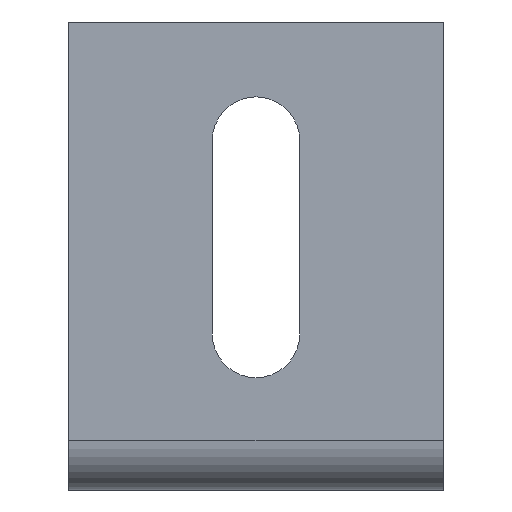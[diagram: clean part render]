
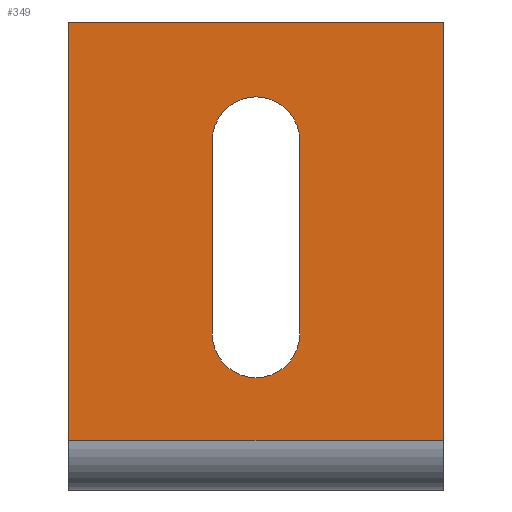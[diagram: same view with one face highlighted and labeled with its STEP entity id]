
A CAD part, front view. The second image highlights one B-rep face of the part: STEP entity #349.
In plain terms, the highlighted planar face has unit normal (0, -1, 0).
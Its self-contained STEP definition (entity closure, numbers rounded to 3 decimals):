
#13 = EDGE_LOOP ( 'NONE', ( #265, #258, #134, #289 ) ) ;
#17 = DIRECTION ( 'NONE',  ( 0., 0., -1. ) ) ;
#33 = CIRCLE ( 'NONE', #80, 7. ) ;
#35 = VERTEX_POINT ( 'NONE', #583 ) ;
#40 = EDGE_CURVE ( 'NONE', #312, #358, #128, .T. ) ;
#44 = DIRECTION ( 'NONE',  ( 0., 0., 1. ) ) ;
#46 = VECTOR ( 'NONE', #606, 1000. ) ;
#53 = LINE ( 'NONE', #259, #257 ) ;
#64 = EDGE_CURVE ( 'NONE', #35, #343, #342, .T. ) ;
#72 = CARTESIAN_POINT ( 'NONE',  ( 37., 0., 6. ) ) ;
#77 = DIRECTION ( 'NONE',  ( 0., 1., 0. ) ) ;
#80 = AXIS2_PLACEMENT_3D ( 'NONE', #154, #582, #287 ) ;
#88 = CARTESIAN_POINT ( 'NONE',  ( 60., 0., 75. ) ) ;
#105 = VECTOR ( 'NONE', #17, 1000. ) ;
#116 = DIRECTION ( 'NONE',  ( 1., 0., 0. ) ) ;
#126 = EDGE_CURVE ( 'NONE', #343, #552, #227, .T. ) ;
#128 = LINE ( 'NONE', #163, #545 ) ;
#132 = AXIS2_PLACEMENT_3D ( 'NONE', #615, #463, #44 ) ;
#134 = ORIENTED_EDGE ( 'NONE', *, *, #379, .F. ) ;
#137 = ORIENTED_EDGE ( 'NONE', *, *, #158, .T. ) ;
#139 = CARTESIAN_POINT ( 'NONE',  ( 60., 0., 8. ) ) ;
#140 = CARTESIAN_POINT ( 'NONE',  ( 60., 0., 6. ) ) ;
#154 = CARTESIAN_POINT ( 'NONE',  ( 30., 0., 56. ) ) ;
#158 = EDGE_CURVE ( 'NONE', #552, #622, #53, .T. ) ;
#163 = CARTESIAN_POINT ( 'NONE',  ( 0., 0., 75. ) ) ;
#173 = VERTEX_POINT ( 'NONE', #394 ) ;
#184 = CARTESIAN_POINT ( 'NONE',  ( 60., 0., 8. ) ) ;
#204 = EDGE_CURVE ( 'NONE', #286, #35, #526, .T. ) ;
#212 = ORIENTED_EDGE ( 'NONE', *, *, #204, .T. ) ;
#227 = CIRCLE ( 'NONE', #417, 7. ) ;
#257 = VECTOR ( 'NONE', #354, 1000. ) ;
#258 = ORIENTED_EDGE ( 'NONE', *, *, #315, .T. ) ;
#259 = CARTESIAN_POINT ( 'NONE',  ( 23., 0., 6. ) ) ;
#265 = ORIENTED_EDGE ( 'NONE', *, *, #347, .T. ) ;
#268 = DIRECTION ( 'NONE',  ( 0., 1., 0. ) ) ;
#272 = PLANE ( 'NONE',  #132 ) ;
#277 = ORIENTED_EDGE ( 'NONE', *, *, #126, .T. ) ;
#286 = VERTEX_POINT ( 'NONE', #314 ) ;
#287 = DIRECTION ( 'NONE',  ( 0., 0., 1. ) ) ;
#289 = ORIENTED_EDGE ( 'NONE', *, *, #40, .F. ) ;
#301 = LINE ( 'NONE', #139, #364 ) ;
#312 = VERTEX_POINT ( 'NONE', #464 ) ;
#314 = CARTESIAN_POINT ( 'NONE',  ( 30., 0., 63. ) ) ;
#315 = EDGE_CURVE ( 'NONE', #173, #391, #301, .T. ) ;
#329 = CARTESIAN_POINT ( 'NONE',  ( 23., 0., 56. ) ) ;
#340 = CARTESIAN_POINT ( 'NONE',  ( 23., 0., 25. ) ) ;
#342 = LINE ( 'NONE', #72, #105 ) ;
#343 = VERTEX_POINT ( 'NONE', #609 ) ;
#347 = EDGE_CURVE ( 'NONE', #312, #173, #377, .T. ) ;
#349 = ADVANCED_FACE ( 'NONE', ( #425, #472 ), #272, .F. ) ;
#354 = DIRECTION ( 'NONE',  ( 0., 0., 1. ) ) ;
#355 = DIRECTION ( 'NONE',  ( 0., 0., 1. ) ) ;
#358 = VERTEX_POINT ( 'NONE', #88 ) ;
#359 = ORIENTED_EDGE ( 'NONE', *, *, #563, .T. ) ;
#364 = VECTOR ( 'NONE', #457, 1000. ) ;
#365 = DIRECTION ( 'NONE',  ( 0., 0., -1. ) ) ;
#367 = CARTESIAN_POINT ( 'NONE',  ( 0., 0., 6. ) ) ;
#377 = LINE ( 'NONE', #367, #46 ) ;
#379 = EDGE_CURVE ( 'NONE', #358, #391, #418, .T. ) ;
#391 = VERTEX_POINT ( 'NONE', #184 ) ;
#394 = CARTESIAN_POINT ( 'NONE',  ( 0., 0., 8. ) ) ;
#417 = AXIS2_PLACEMENT_3D ( 'NONE', #548, #77, #355 ) ;
#418 = LINE ( 'NONE', #140, #459 ) ;
#425 = FACE_BOUND ( 'NONE', #510, .T. ) ;
#457 = DIRECTION ( 'NONE',  ( 1., 0., 0. ) ) ;
#459 = VECTOR ( 'NONE', #365, 1000. ) ;
#463 = DIRECTION ( 'NONE',  ( 0., 1., 0. ) ) ;
#464 = CARTESIAN_POINT ( 'NONE',  ( 0., 0., 75. ) ) ;
#472 = FACE_OUTER_BOUND ( 'NONE', #13, .T. ) ;
#509 = AXIS2_PLACEMENT_3D ( 'NONE', #511, #268, #614 ) ;
#510 = EDGE_LOOP ( 'NONE', ( #277, #137, #359, #212, #586 ) ) ;
#511 = CARTESIAN_POINT ( 'NONE',  ( 30., 0., 56. ) ) ;
#526 = CIRCLE ( 'NONE', #509, 7. ) ;
#545 = VECTOR ( 'NONE', #116, 1000. ) ;
#548 = CARTESIAN_POINT ( 'NONE',  ( 30., 0., 25. ) ) ;
#552 = VERTEX_POINT ( 'NONE', #340 ) ;
#563 = EDGE_CURVE ( 'NONE', #622, #286, #33, .T. ) ;
#582 = DIRECTION ( 'NONE',  ( 0., 1., 0. ) ) ;
#583 = CARTESIAN_POINT ( 'NONE',  ( 37., 0., 56. ) ) ;
#586 = ORIENTED_EDGE ( 'NONE', *, *, #64, .T. ) ;
#606 = DIRECTION ( 'NONE',  ( 0., 0., -1. ) ) ;
#609 = CARTESIAN_POINT ( 'NONE',  ( 37., 0., 25. ) ) ;
#614 = DIRECTION ( 'NONE',  ( 0., 0., 1. ) ) ;
#615 = CARTESIAN_POINT ( 'NONE',  ( 0., 0., 6. ) ) ;
#622 = VERTEX_POINT ( 'NONE', #329 ) ;
